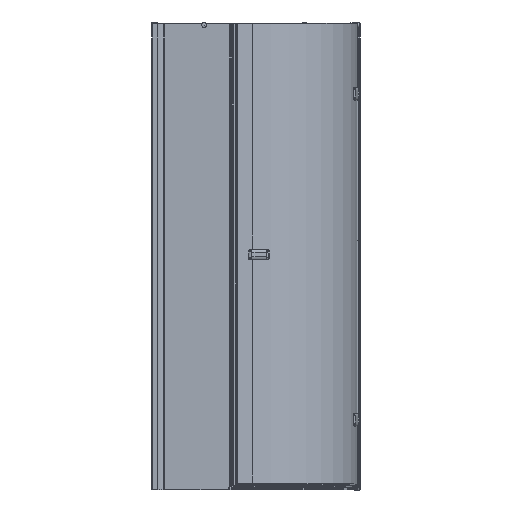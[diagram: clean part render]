
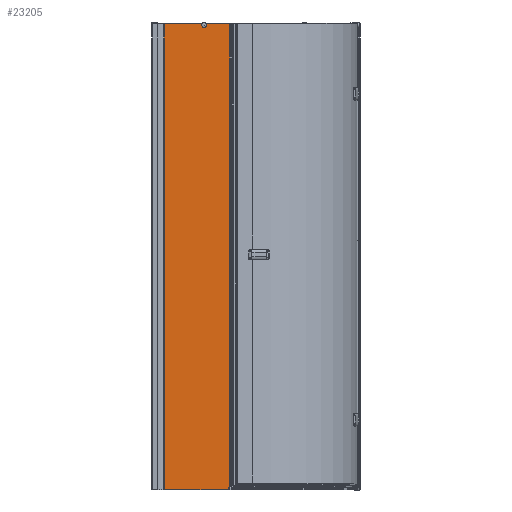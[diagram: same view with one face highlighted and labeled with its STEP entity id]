
A CAD part, left-side view. The second image highlights one B-rep face of the part: STEP entity #23205.
In plain terms, the highlighted planar face has unit normal (-1, 0, 0).
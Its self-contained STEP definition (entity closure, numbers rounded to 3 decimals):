
#711=PLANE($,#25086);
#2503=LINE($,#53230,#4383);
#2504=LINE($,#53232,#4384);
#2505=LINE($,#53234,#4385);
#2506=LINE($,#53238,#4386);
#2507=LINE($,#53240,#4387);
#2508=LINE($,#53241,#4388);
#4383=VECTOR($,#30037,164.716);
#4384=VECTOR($,#30038,2000.);
#4385=VECTOR($,#30039,278.);
#4386=VECTOR($,#30042,9.);
#4387=VECTOR($,#30043,1998.);
#4388=VECTOR($,#30044,106.423);
#6093=FACE_OUTER_BOUND($,#7461,.T.);
#7461=EDGE_LOOP($,(#19010,#19011,#19012,#19013,#19014,#19015,#19016,#19017));
#8885=CIRCLE($,#25071,10.);
#8890=CIRCLE($,#25087,2.);
#10726=VERTEX_POINT($,#53197);
#10727=VERTEX_POINT($,#53199);
#10732=VERTEX_POINT($,#53229);
#10733=VERTEX_POINT($,#53231);
#10734=VERTEX_POINT($,#53233);
#10735=VERTEX_POINT($,#53235);
#10736=VERTEX_POINT($,#53237);
#10737=VERTEX_POINT($,#53239);
#13605=EDGE_CURVE($,#10726,#10727,#8885,.T.);
#13619=EDGE_CURVE($,#10732,#10726,#2503,.T.);
#13620=EDGE_CURVE($,#10733,#10732,#2504,.T.);
#13621=EDGE_CURVE($,#10733,#10734,#2505,.T.);
#13622=EDGE_CURVE($,#10735,#10734,#8890,.T.);
#13623=EDGE_CURVE($,#10736,#10735,#2506,.T.);
#13624=EDGE_CURVE($,#10737,#10736,#2507,.T.);
#13625=EDGE_CURVE($,#10727,#10737,#2508,.T.);
#19010=ORIENTED_EDGE($,*,*,#13605,.F.);
#19011=ORIENTED_EDGE($,*,*,#13619,.F.);
#19012=ORIENTED_EDGE($,*,*,#13620,.F.);
#19013=ORIENTED_EDGE($,*,*,#13621,.T.);
#19014=ORIENTED_EDGE($,*,*,#13622,.F.);
#19015=ORIENTED_EDGE($,*,*,#13623,.F.);
#19016=ORIENTED_EDGE($,*,*,#13624,.F.);
#19017=ORIENTED_EDGE($,*,*,#13625,.F.);
#23205=ADVANCED_FACE($,(#6093),#711,.F.);
#25071=AXIS2_PLACEMENT_3D($,#53200,#29996,#29997);
#25086=AXIS2_PLACEMENT_3D($,#53228,#30035,#30036);
#25087=AXIS2_PLACEMENT_3D($,#53236,#30040,#30041);
#29996=DIRECTION('center_axis',(-1.,0.,0.));
#29997=DIRECTION('ref_axis',(0.,-1.,0.));
#30035=DIRECTION('center_axis',(1.,0.,0.));
#30036=DIRECTION('ref_axis',(0.,-1.,0.));
#30037=DIRECTION($,(0.,-1.,0.));
#30038=DIRECTION($,(0.,0.,1.));
#30039=DIRECTION($,(0.,-1.,0.));
#30040=DIRECTION('center_axis',(-1.,0.,0.));
#30041=DIRECTION('ref_axis',(0.,0.707,0.707));
#30042=DIRECTION($,(0.,1.,0.));
#30043=DIRECTION($,(0.,0.,-1.));
#30044=DIRECTION($,(0.,-1.,0.));
#53197=CARTESIAN_POINT('',(1331.733,531.24,1485.944));
#53199=CARTESIAN_POINT('',(1331.733,513.379,1485.944));
#53200=CARTESIAN_POINT('Origin',(1331.733,522.309,1481.444));
#53228=CARTESIAN_POINT('Origin',(1331.733,738.956,1485.944));
#53229=CARTESIAN_POINT('',(1331.733,695.956,1485.944));
#53230=CARTESIAN_POINT($,(1331.733,738.956,1485.944));
#53231=CARTESIAN_POINT('',(1331.733,695.956,-514.056));
#53232=CARTESIAN_POINT($,(1331.733,695.956,1485.944));
#53233=CARTESIAN_POINT('',(1331.733,417.956,-514.056));
#53234=CARTESIAN_POINT($,(1331.733,738.956,-514.056));
#53235=CARTESIAN_POINT('',(1331.733,415.956,-512.056));
#53236=CARTESIAN_POINT('Origin',(1331.733,415.956,-514.056));
#53237=CARTESIAN_POINT('',(1331.733,406.956,-512.056));
#53238=CARTESIAN_POINT($,(1331.733,578.456,-512.056));
#53239=CARTESIAN_POINT('',(1331.733,406.956,1485.944));
#53240=CARTESIAN_POINT($,(1331.733,406.956,1485.944));
#53241=CARTESIAN_POINT($,(1331.733,738.956,1485.944));
